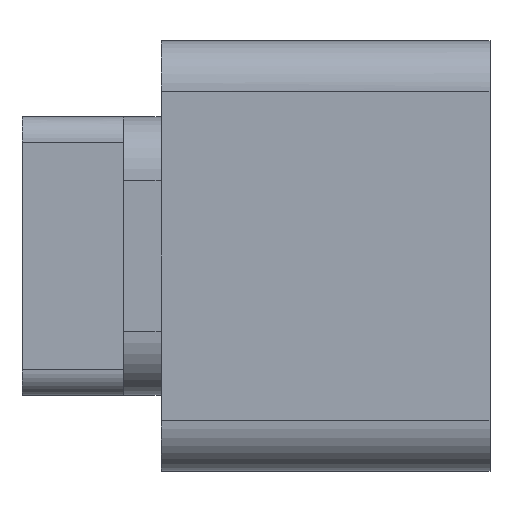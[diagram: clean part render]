
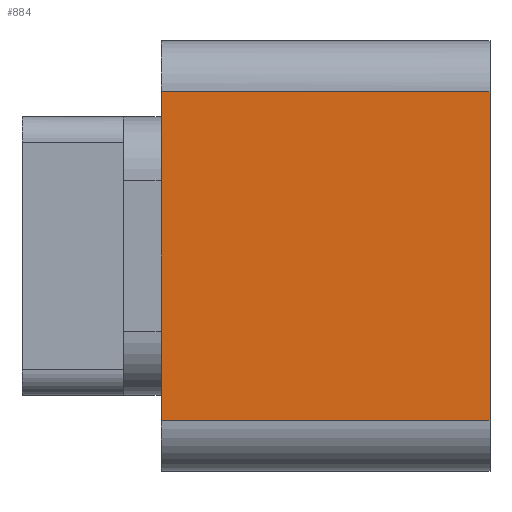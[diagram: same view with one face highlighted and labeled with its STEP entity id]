
A CAD part, front view. The second image highlights one B-rep face of the part: STEP entity #884.
In plain terms, the highlighted planar face has unit normal (0, -1, 0).
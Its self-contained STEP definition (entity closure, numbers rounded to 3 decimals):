
#857=AXIS2_PLACEMENT_3D('Plane Axis2P3D',#854,#855,#856) ;
#714=CARTESIAN_POINT('Vertex',(0.,-12.5,-6.5)) ;
#730=CARTESIAN_POINT('Vertex',(13.,-12.5,-6.5)) ;
#733=CARTESIAN_POINT('Line Origine',(6.5,-12.5,-6.5)) ;
#854=CARTESIAN_POINT('Axis2P3D Location',(0.,-12.5,7.5)) ;
#859=CARTESIAN_POINT('Line Origine',(0.,-12.5,0.)) ;
#863=CARTESIAN_POINT('Vertex',(0.,-12.5,6.5)) ;
#866=CARTESIAN_POINT('Line Origine',(13.,-12.5,0.)) ;
#870=CARTESIAN_POINT('Vertex',(13.,-12.5,6.5)) ;
#873=CARTESIAN_POINT('Line Origine',(6.5,-12.5,6.5)) ;
#734=DIRECTION('Vector Direction',(1.,0.,0.)) ;
#855=DIRECTION('Axis2P3D Direction',(0.,-1.,0.)) ;
#856=DIRECTION('Axis2P3D XDirection',(0.,0.,-1.)) ;
#860=DIRECTION('Vector Direction',(0.,0.,-1.)) ;
#867=DIRECTION('Vector Direction',(0.,0.,-1.)) ;
#874=DIRECTION('Vector Direction',(1.,0.,0.)) ;
#735=VECTOR('Line Direction',#734,1.) ;
#861=VECTOR('Line Direction',#860,1.) ;
#868=VECTOR('Line Direction',#867,1.) ;
#875=VECTOR('Line Direction',#874,1.) ;
#879=ORIENTED_EDGE('',*,*,#865,.F.) ;
#880=ORIENTED_EDGE('',*,*,#737,.F.) ;
#881=ORIENTED_EDGE('',*,*,#872,.T.) ;
#882=ORIENTED_EDGE('',*,*,#877,.F.) ;
#884=ADVANCED_FACE('\X2\96F64EF651E04F554F53\X0\',(#883),#858,.T.) ;
#737=EDGE_CURVE('',#731,#715,#736,.F.) ;
#865=EDGE_CURVE('',#715,#864,#862,.F.) ;
#872=EDGE_CURVE('',#731,#871,#869,.F.) ;
#877=EDGE_CURVE('',#864,#871,#876,.T.) ;
#878=EDGE_LOOP('',(#879,#880,#881,#882)) ;
#883=FACE_OUTER_BOUND('',#878,.T.) ;
#736=LINE('Line',#733,#735) ;
#862=LINE('Line',#859,#861) ;
#869=LINE('Line',#866,#868) ;
#876=LINE('Line',#873,#875) ;
#858=PLANE('Plane',#857) ;
#715=VERTEX_POINT('',#714) ;
#731=VERTEX_POINT('',#730) ;
#864=VERTEX_POINT('',#863) ;
#871=VERTEX_POINT('',#870) ;
